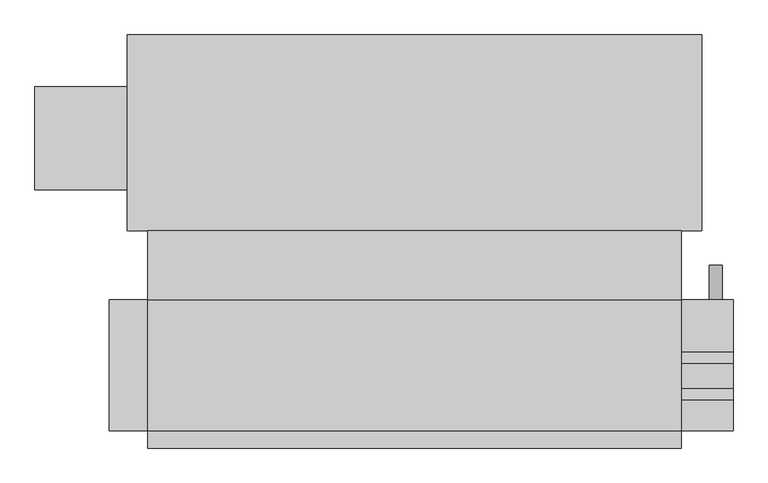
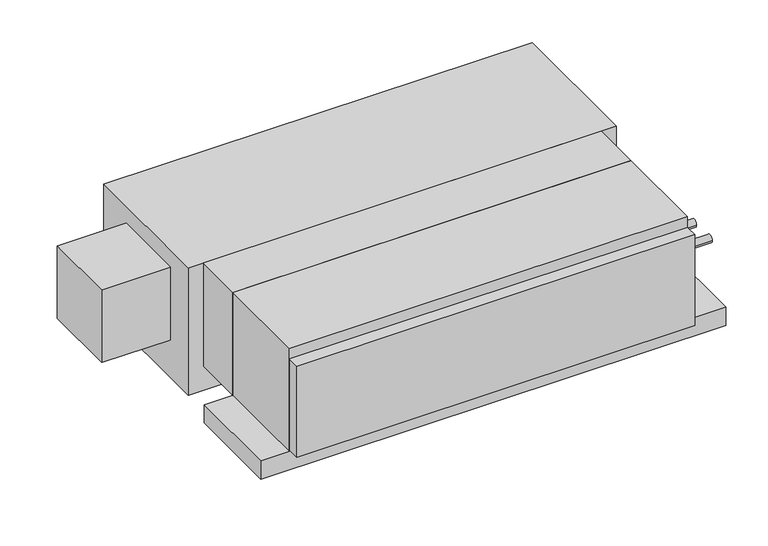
"""IFC4 building model written with IfcOpenShell, lengths in millimetres: proxy geometry, Concealed_Horizontal_Fan_Coil_Unit_With_Plenum_-_42CEA_-_CARRIER_-_2-Pipe_Cool-EHeat_RH_2022 : Size 06 - 277v/60Hz/1Ph - 4 Row 6.0kW."""

from ifc_helpers import new_model, si_unit, point, frame, frame_2d, origin, place, context, project, spatial, polyline, circle_curve, trimmed, segment, composite_curve, outline, extrude, source, transform, mapped, element, save


def mechanical_equipment_46581fb9(model_context):
    return source(origin(), model_context, "Body", "SweptSolid", [
        extrude(outline(composite_curve([segment(trimmed(circle_curve(frame_2d((-280.9875, -104.775)), 7.9375), [point((-273.05, -104.775))], [point((-288.925, -104.775))], False, "CARTESIAN"), True, "CONTINUOUS"), segment(trimmed(circle_curve(frame_2d((-280.9875, -104.775)), 7.9375), [point((-288.925, -104.775))], [point((-273.05, -104.775))], False, "CARTESIAN"), True, "CONTINUOUS")], self_intersect=False)), frame((546.1, 0.0, 0.0), z_axis=(1.0, 0.0, 0.0), x_axis=(0.0, 1.0, 0.0)), (0.0, 0.0, 1.0), 76.2),
        extrude(outline(composite_curve([segment(trimmed(circle_curve(frame_2d((-227.0125, -104.775)), 7.9375), [point((-219.075, -104.775))], [point((-234.95, -104.775))], False, "CARTESIAN"), True, "CONTINUOUS"), segment(trimmed(circle_curve(frame_2d((-227.0125, -104.775)), 7.9375), [point((-234.95, -104.775))], [point((-219.075, -104.775))], False, "CARTESIAN"), True, "CONTINUOUS")], self_intersect=False)), frame((546.1, 0.0, 0.0), z_axis=(1.0, 0.0, 0.0), x_axis=(0.0, 1.0, 0.0)), (0.0, 0.0, 1.0), 76.2),
        extrude(outline(composite_curve([segment(trimmed(circle_curve(frame_2d((-241.3, 596.9)), 9.525), [point((-241.3, 587.375))], [point((-241.3, 606.425))], False, "CARTESIAN"), True, "CONTINUOUS"), segment(trimmed(circle_curve(frame_2d((-241.3, 596.9)), 9.525), [point((-241.3, 606.425))], [point((-241.3, 587.375))], False, "CARTESIAN"), True, "CONTINUOUS")], self_intersect=False)), frame((0.0, -141.2875, 0.0), z_axis=(0.0, 1.0, 0.0), x_axis=(0.0, 0.0, 1.0)), (0.0, 0.0, 1.0), 50.8),
        extrude(outline(polyline([(-241.3, -39.6875), (546.1, -39.6875), (546.1, -141.2875), (-241.3, -141.2875), (-241.3, -39.6875)])), frame((0.0, 0.0, -215.9), z_axis=(0.0, 0.0, 1.0), x_axis=(1.0, 0.0, 0.0)), (0.0, 0.0, 1.0), 215.9),
        extrude(outline(polyline([(546.1, -360.3625), (-241.3, -360.3625), (-241.3, -334.9625), (546.1, -334.9625), (546.1, -360.3625)])), frame((0.0, 0.0, -212.725), z_axis=(0.0, 0.0, 1.0), x_axis=(1.0, 0.0, 0.0)), (0.0, 0.0, 1.0), 190.5),
        extrude(outline(polyline([(-407.9875, 20.6375), (-407.9875, 173.0375), (-271.4625, 173.0375), (-271.4625, 20.6375), (-407.9875, 20.6375)])), frame((0.0, 0.0, -187.325), z_axis=(0.0, 0.0, 1.0), x_axis=(1.0, 0.0, 0.0)), (0.0, 0.0, 1.0), 152.4),
        extrude(outline(polyline([(-271.4625, 249.2375), (576.2625, 249.2375), (576.2625, -39.6875), (-271.4625, -39.6875), (-271.4625, 249.2375)])), frame((0.0, 0.0, -266.7), z_axis=(0.0, 0.0, 1.0), x_axis=(1.0, 0.0, 0.0)), (0.0, 0.0, 1.0), 266.7),
        extrude(outline(polyline([(546.1, -141.2875), (546.1, -334.9625), (-241.3, -334.9625), (-241.3, -141.2875), (546.1, -141.2875)])), frame((0.0, 0.0, -215.9), z_axis=(0.0, 0.0, 1.0), x_axis=(1.0, 0.0, 0.0)), (0.0, 0.0, 1.0), 215.9),
        extrude(outline(polyline([(622.3, -141.2875), (622.3, -334.9625), (-298.45, -334.9625), (-298.45, -141.2875), (622.3, -141.2875)])), frame((0.0, 0.0, -254.0), z_axis=(0.0, 0.0, 1.0), x_axis=(1.0, 0.0, 0.0)), (0.0, 0.0, 1.0), 38.1),
    ])


if __name__ == "__main__":
    model = new_model("IFC4")
    model_context = context("Model", 3, world=origin())
    ifc_project = project(units=[si_unit("LENGTHUNIT", "METRE", prefix="MILLI")], contexts=[model_context])
    site = spatial("IfcSite", under=ifc_project)
    building = spatial("IfcBuilding", under=site)
    placement = place(None, origin())
    mechanical_equipment_shape = mechanical_equipment_46581fb9(model_context)
    element("IfcBuildingElementProxy", 1, Name="Concealed_Horizontal_Fan_Coil_Unit_With_Plenum_-_42CEA_-_CARRIER_-_2-Pipe_Cool-EHeat_RH_2022 : Size 06 - 277v/60Hz/1Ph - 4 Row 6.0kW", ObjectType="Concealed_Horizontal_Fan_Coil_Unit_With_Plenum_-_42CEA_-_CARRIER_-_2-Pipe_Cool-EHeat_RH_2022 : Size 06 - 277v/60Hz/1Ph - 4 Row 6.0kW", at=placement, inside=building, context=model_context, shape_type="MappedRepresentation", body=[
        mapped(mechanical_equipment_shape, transform((0.0, 0.0, 0.0), x_axis=(1.0, 0.0, 0.0), y_axis=(0.0, 1.0, 0.0), z_axis=(0.0, 0.0, 1.0))),
    ])
    save(model, "model.ifc")
